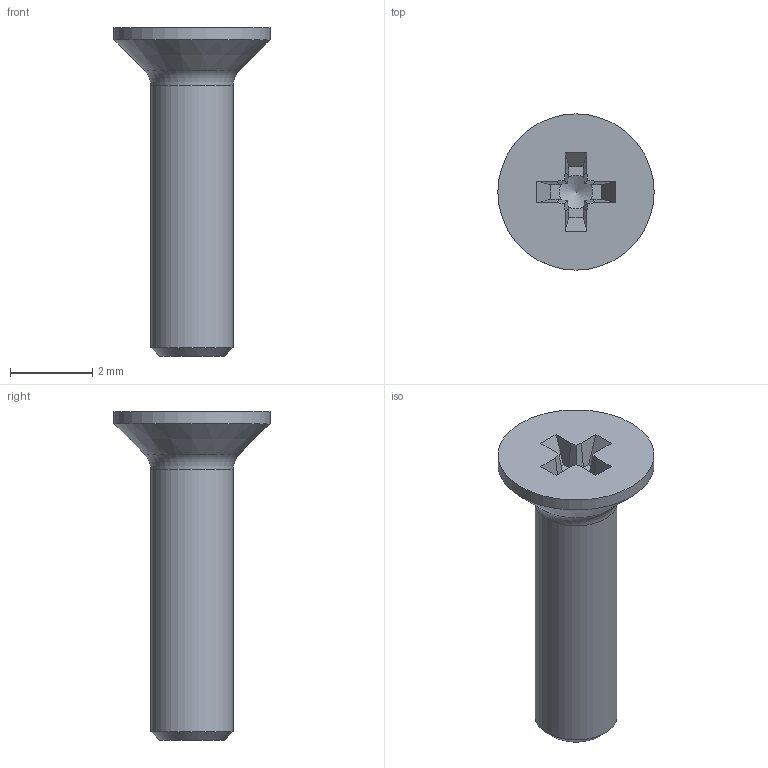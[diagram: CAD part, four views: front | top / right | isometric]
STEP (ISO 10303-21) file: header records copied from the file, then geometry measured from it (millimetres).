
FILE_DESCRIPTION(/* description */ ('STEP AP242 Edition 2','CAx-IF Rec.Pracs.---Representation and Presentation of Product Manufacturing Information (PMI)---4.0---2014-10-13','CAx-IF Rec.Pracs.---3D Tessellated Geometry---0.4---2014-09-14','2;1','CAx-IF Rec.Pracs.---User Defined Attributes---1.5---2016-08-15'),/* implementation_level */ '2;1');
FILE_NAME(/* name */ 'Tracker Assembly - PH Countersunk flat head screw M2x0.4 x 8',/* time_stamp */ '2026-10-25T15:06:36Z',/* author */ (''),/* organization */ (''),/* preprocessor_version */ 'ST-DEVELOPER v20',/* originating_system */ 'ONSHAPE BY PTC INC, 1.222',/* authorisation */ ' ');
FILE_SCHEMA (('AP242_MANAGED_MODEL_BASED_3D_ENGINEERING_MIM_LF { 1 0 10303 442 3 1 4 }'));
Length unit declared in the file: metre
Products named in the file (1): PH Countersunk flat head screw M2x0.4 x 8
Bounding box: 3.8 x 3.8 x 8 mm (x, y, z)
Volume: 29.9 mm3; surface area: 74.8 mm2
Topology: 1 solids, 1 shells, 32 faces, 87 edges, 57 vertices
Faces by surface type: plane 26, cone 3, cylinder 2, torus 1
Full cylindrical faces by diameter (mm): 2 x1, 3.8 x1
Entity records: 974 total; most frequent: CARTESIAN_POINT 190, ORIENTED_EDGE 156, DIRECTION 146, EDGE_CURVE 78, LINE 60, VECTOR 60, VERTEX_POINT 55, AXIS2_PLACEMENT_3D 43
